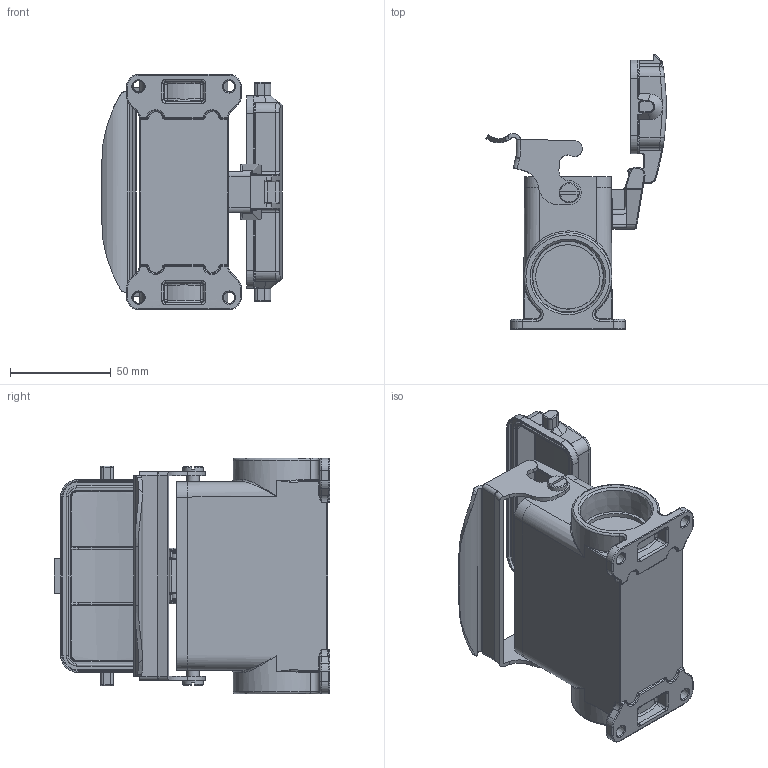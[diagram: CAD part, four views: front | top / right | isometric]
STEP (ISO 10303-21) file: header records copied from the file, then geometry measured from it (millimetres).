
FILE_DESCRIPTION (( 'STEP AP203' ), '1' );
FILE_NAME ('H16B-SDRH-LB-M32.STEP', '2023-06-09T03:10:55', ( '' ), ( '' ), 'SwSTEP 2.0', 'SolidWorks 2016', '' );
FILE_SCHEMA (( 'CONFIG_CONTROL_DESIGN' ));
Length unit declared in the file: millimetre
Products named in the file (1): H16B-SDRH-LB-M32
Bounding box: 89.74 x 136.92 x 117 mm (x, y, z)
Volume: 152940.3 mm3; surface area: 86264.2 mm2
Topology: 1 solids, 3 shells, 996 faces, 2455 edges, 1484 vertices
Faces by surface type: cylinder 373, plane 253, bspline 170, torus 135, cone 45, sphere 20
Full cylindrical faces by diameter (mm): 4 x2, 6 x2, 6.2 x2, 10 x2, 27.5 x1, 32 x1
Entity records: 42987 total; most frequent: CARTESIAN_POINT 21568, ORIENTED_EDGE 4798, DIRECTION 3919, EDGE_CURVE 2399, AXIS2_PLACEMENT_3D 1499, VERTEX_POINT 1471, EDGE_LOOP 1080, FACE_OUTER_BOUND 1010
